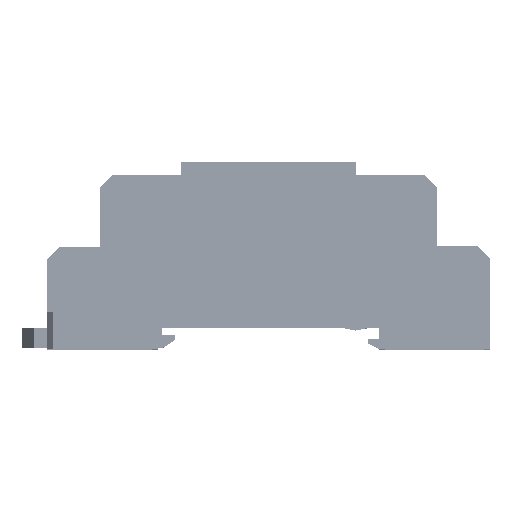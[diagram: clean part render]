
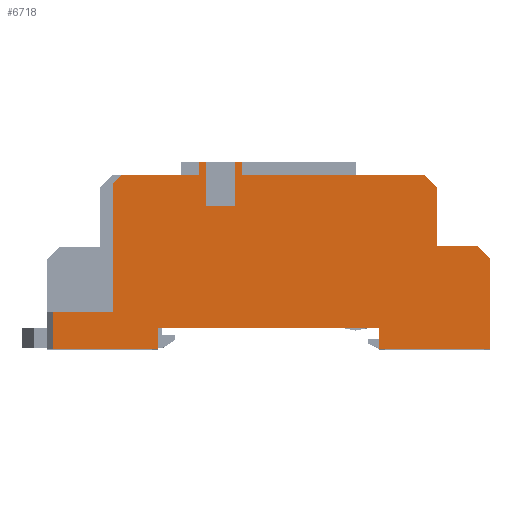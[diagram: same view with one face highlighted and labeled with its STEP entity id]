
A CAD part, top view. The second image highlights one B-rep face of the part: STEP entity #6718.
In plain terms, the highlighted planar face has unit normal (0, 0, 1).
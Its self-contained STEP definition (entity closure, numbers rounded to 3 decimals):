
#2072=FACE_OUTER_BOUND('',#15607,.T.);
#6718=ADVANCED_FACE('',(#2072),#9989,.F.);
#9989=PLANE('',#71846);
#15607=EDGE_LOOP('',(#24761,#24762,#24763,#24764,#24765,#24766,#24767,#24768,
#24769,#24770,#24771,#24772,#24773,#24774,#24775,#24776,#24777,#24778,#24779,
#24780,#24781,#24782,#24783));
#24761=ORIENTED_EDGE('',*,*,#48174,.F.);
#24762=ORIENTED_EDGE('',*,*,#48219,.T.);
#24763=ORIENTED_EDGE('',*,*,#48220,.F.);
#24764=ORIENTED_EDGE('',*,*,#48221,.F.);
#24765=ORIENTED_EDGE('',*,*,#48222,.T.);
#24766=ORIENTED_EDGE('',*,*,#48223,.T.);
#24767=ORIENTED_EDGE('',*,*,#48224,.F.);
#24768=ORIENTED_EDGE('',*,*,#48225,.T.);
#24769=ORIENTED_EDGE('',*,*,#48226,.T.);
#24770=ORIENTED_EDGE('',*,*,#48227,.T.);
#24771=ORIENTED_EDGE('',*,*,#48228,.F.);
#24772=ORIENTED_EDGE('',*,*,#48229,.T.);
#24773=ORIENTED_EDGE('',*,*,#48230,.T.);
#24774=ORIENTED_EDGE('',*,*,#48231,.T.);
#24775=ORIENTED_EDGE('',*,*,#48232,.T.);
#24776=ORIENTED_EDGE('',*,*,#48233,.F.);
#24777=ORIENTED_EDGE('',*,*,#48234,.T.);
#24778=ORIENTED_EDGE('',*,*,#48235,.T.);
#24779=ORIENTED_EDGE('',*,*,#48236,.F.);
#24780=ORIENTED_EDGE('',*,*,#48237,.F.);
#24781=ORIENTED_EDGE('',*,*,#48238,.T.);
#24782=ORIENTED_EDGE('',*,*,#48239,.T.);
#24783=ORIENTED_EDGE('',*,*,#48240,.F.);
#40553=VERTEX_POINT('',#119579);
#40554=VERTEX_POINT('',#119581);
#40595=VERTEX_POINT('',#119670);
#40596=VERTEX_POINT('',#119672);
#40597=VERTEX_POINT('',#119674);
#40598=VERTEX_POINT('',#119676);
#40599=VERTEX_POINT('',#119678);
#40600=VERTEX_POINT('',#119680);
#40601=VERTEX_POINT('',#119682);
#40602=VERTEX_POINT('',#119684);
#40603=VERTEX_POINT('',#119686);
#40604=VERTEX_POINT('',#119688);
#40605=VERTEX_POINT('',#119690);
#40606=VERTEX_POINT('',#119692);
#40607=VERTEX_POINT('',#119694);
#40608=VERTEX_POINT('',#119696);
#40609=VERTEX_POINT('',#119698);
#40610=VERTEX_POINT('',#119700);
#40611=VERTEX_POINT('',#119702);
#40612=VERTEX_POINT('',#119704);
#40613=VERTEX_POINT('',#119706);
#40614=VERTEX_POINT('',#119708);
#40615=VERTEX_POINT('',#119710);
#48174=EDGE_CURVE('',#40553,#40554,#57139,.T.);
#48219=EDGE_CURVE('',#40553,#40595,#57184,.T.);
#48220=EDGE_CURVE('',#40596,#40595,#57185,.T.);
#48221=EDGE_CURVE('',#40597,#40596,#57186,.T.);
#48222=EDGE_CURVE('',#40597,#40598,#57187,.T.);
#48223=EDGE_CURVE('',#40598,#40599,#57188,.T.);
#48224=EDGE_CURVE('',#40600,#40599,#57189,.T.);
#48225=EDGE_CURVE('',#40600,#40601,#57190,.T.);
#48226=EDGE_CURVE('',#40601,#40602,#57191,.T.);
#48227=EDGE_CURVE('',#40602,#40603,#57192,.T.);
#48228=EDGE_CURVE('',#40604,#40603,#57193,.T.);
#48229=EDGE_CURVE('',#40604,#40605,#57194,.T.);
#48230=EDGE_CURVE('',#40605,#40606,#57195,.T.);
#48231=EDGE_CURVE('',#40606,#40607,#57196,.T.);
#48232=EDGE_CURVE('',#40607,#40608,#57197,.T.);
#48233=EDGE_CURVE('',#40609,#40608,#57198,.T.);
#48234=EDGE_CURVE('',#40609,#40610,#57199,.T.);
#48235=EDGE_CURVE('',#40610,#40611,#57200,.T.);
#48236=EDGE_CURVE('',#40612,#40611,#57201,.T.);
#48237=EDGE_CURVE('',#40613,#40612,#57202,.T.);
#48238=EDGE_CURVE('',#40613,#40614,#57203,.T.);
#48239=EDGE_CURVE('',#40614,#40615,#57204,.T.);
#48240=EDGE_CURVE('',#40554,#40615,#57205,.T.);
#57139=LINE('',#119580,#64639);
#57184=LINE('',#119669,#64684);
#57185=LINE('',#119671,#64685);
#57186=LINE('',#119673,#64686);
#57187=LINE('',#119675,#64687);
#57188=LINE('',#119677,#64688);
#57189=LINE('',#119679,#64689);
#57190=LINE('',#119681,#64690);
#57191=LINE('',#119683,#64691);
#57192=LINE('',#119685,#64692);
#57193=LINE('',#119687,#64693);
#57194=LINE('',#119689,#64694);
#57195=LINE('',#119691,#64695);
#57196=LINE('',#119693,#64696);
#57197=LINE('',#119695,#64697);
#57198=LINE('',#119697,#64698);
#57199=LINE('',#119699,#64699);
#57200=LINE('',#119701,#64700);
#57201=LINE('',#119703,#64701);
#57202=LINE('',#119705,#64702);
#57203=LINE('',#119707,#64703);
#57204=LINE('',#119709,#64704);
#57205=LINE('',#119711,#64705);
#64639=VECTOR('',#81430,1.);
#64684=VECTOR('',#81481,1.);
#64685=VECTOR('',#81482,1.);
#64686=VECTOR('',#81483,1.);
#64687=VECTOR('',#81484,1.);
#64688=VECTOR('',#81485,1.);
#64689=VECTOR('',#81486,1.);
#64690=VECTOR('',#81487,1.);
#64691=VECTOR('',#81488,1.);
#64692=VECTOR('',#81489,1.);
#64693=VECTOR('',#81490,1.);
#64694=VECTOR('',#81491,1.);
#64695=VECTOR('',#81492,1.);
#64696=VECTOR('',#81493,1.);
#64697=VECTOR('',#81494,1.);
#64698=VECTOR('',#81495,1.);
#64699=VECTOR('',#81496,1.);
#64700=VECTOR('',#81497,1.);
#64701=VECTOR('',#81498,1.);
#64702=VECTOR('',#81499,1.);
#64703=VECTOR('',#81500,1.);
#64704=VECTOR('',#81501,1.);
#64705=VECTOR('',#81502,1.);
#71846=AXIS2_PLACEMENT_3D('',#119712,#81503,#81504);
#81430=DIRECTION('',(1.,0.,0.));
#81481=DIRECTION('',(-0.707,-0.707,0.));
#81482=DIRECTION('',(0.,1.,0.));
#81483=DIRECTION('',(1.,0.,0.));
#81484=DIRECTION('',(0.,-1.,0.));
#81485=DIRECTION('',(1.,0.,0.));
#81486=DIRECTION('',(0.,-1.,0.));
#81487=DIRECTION('',(1.,0.,0.));
#81488=DIRECTION('',(0.,-1.,0.));
#81489=DIRECTION('',(1.,0.,0.));
#81490=DIRECTION('',(0.,-1.,0.));
#81491=DIRECTION('',(-0.707,0.707,0.));
#81492=DIRECTION('',(-1.,0.,0.));
#81493=DIRECTION('',(0.,1.,0.));
#81494=DIRECTION('',(-0.707,0.707,0.));
#81495=DIRECTION('',(1.,0.,0.));
#81496=DIRECTION('',(0.,1.,0.));
#81497=DIRECTION('',(-1.,0.,0.));
#81498=DIRECTION('',(0.,1.,0.));
#81499=DIRECTION('',(1.,0.,0.));
#81500=DIRECTION('',(0.,1.,0.));
#81501=DIRECTION('',(-1.,0.,0.));
#81502=DIRECTION('',(0.,1.,0.));
#81503=DIRECTION('',(0.,0.,-1.));
#81504=DIRECTION('',(-1.,0.,0.));
#119579=CARTESIAN_POINT('',(29.297,37.817,0.));
#119580=CARTESIAN_POINT('',(27.797,37.817,0.));
#119581=CARTESIAN_POINT('',(41.597,37.817,0.));
#119669=CARTESIAN_POINT('',(27.897,36.417,0.));
#119670=CARTESIAN_POINT('',(27.897,36.417,0.));
#119671=CARTESIAN_POINT('',(27.897,15.817,0.));
#119672=CARTESIAN_POINT('',(27.897,15.817,0.));
#119673=CARTESIAN_POINT('',(17.297,15.817,0.));
#119674=CARTESIAN_POINT('',(18.297,15.817,0.));
#119675=CARTESIAN_POINT('',(18.297,26.317,0.));
#119676=CARTESIAN_POINT('',(18.297,9.817,0.));
#119677=CARTESIAN_POINT('',(17.297,9.817,0.));
#119678=CARTESIAN_POINT('',(35.097,9.817,0.));
#119679=CARTESIAN_POINT('',(35.097,13.217,0.));
#119680=CARTESIAN_POINT('',(35.097,13.217,0.));
#119681=CARTESIAN_POINT('',(35.097,13.217,0.));
#119682=CARTESIAN_POINT('',(70.497,13.217,0.));
#119683=CARTESIAN_POINT('',(70.497,13.217,0.));
#119684=CARTESIAN_POINT('',(70.497,9.817,0.));
#119685=CARTESIAN_POINT('',(70.497,9.817,0.));
#119686=CARTESIAN_POINT('',(88.297,9.817,0.));
#119687=CARTESIAN_POINT('',(88.297,24.317,0.));
#119688=CARTESIAN_POINT('',(88.297,24.317,0.));
#119689=CARTESIAN_POINT('',(88.297,24.317,0.));
#119690=CARTESIAN_POINT('',(86.297,26.317,0.));
#119691=CARTESIAN_POINT('',(86.297,26.317,0.));
#119692=CARTESIAN_POINT('',(79.797,26.317,0.));
#119693=CARTESIAN_POINT('',(79.797,26.317,0.));
#119694=CARTESIAN_POINT('',(79.797,35.817,0.));
#119695=CARTESIAN_POINT('',(79.797,35.817,0.));
#119696=CARTESIAN_POINT('',(77.797,37.817,0.));
#119697=CARTESIAN_POINT('',(66.797,37.817,0.));
#119698=CARTESIAN_POINT('',(48.597,37.817,0.));
#119699=CARTESIAN_POINT('',(48.597,37.817,0.));
#119700=CARTESIAN_POINT('',(48.597,39.817,0.));
#119701=CARTESIAN_POINT('',(66.797,39.817,0.));
#119702=CARTESIAN_POINT('',(47.447,39.817,0.));
#119703=CARTESIAN_POINT('',(47.447,32.817,0.));
#119704=CARTESIAN_POINT('',(47.447,32.817,0.));
#119705=CARTESIAN_POINT('',(42.747,32.817,0.));
#119706=CARTESIAN_POINT('',(42.747,32.817,0.));
#119707=CARTESIAN_POINT('',(42.747,32.817,0.));
#119708=CARTESIAN_POINT('',(42.747,39.817,0.));
#119709=CARTESIAN_POINT('',(66.797,39.817,0.));
#119710=CARTESIAN_POINT('',(41.597,39.817,0.));
#119711=CARTESIAN_POINT('',(41.597,37.817,0.));
#119712=CARTESIAN_POINT('',(17.297,26.317,0.));
